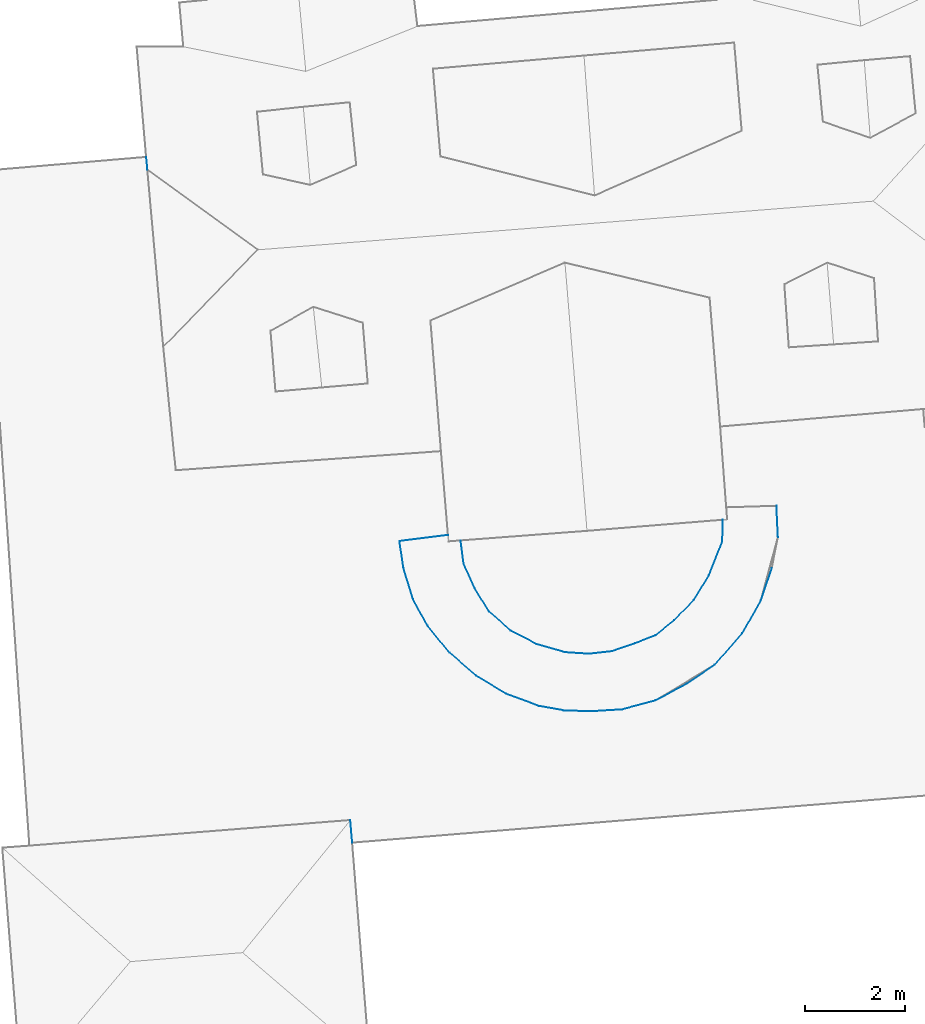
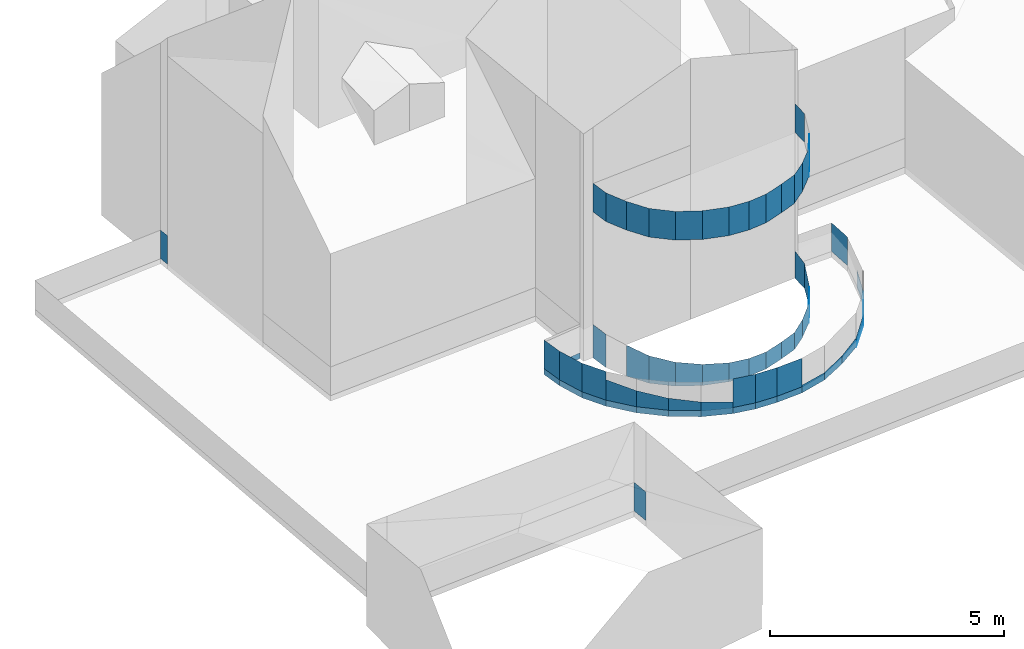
# Not in any storey, part 48 of 59: 88 walls.
"""IFC4 building model written with IfcOpenShell, lengths in metres."""

from ifc_helpers import new_model, entity, si_unit, converted_unit, frame, origin, place, context, subcontext, project, spatial, face_set, surface_model, element, save


model = new_model("IFC4")

# Units and contexts
model_context = context("Model", 3, precision=1e-05, world=origin())
body_context = subcontext(model_context, "Body", "Model", "MODEL_VIEW")
ifc_project = project(units=[converted_unit("PLANEANGLEUNIT", "DEGREE", entity("IfcRatioMeasure", 0.0174532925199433), si_unit("PLANEANGLEUNIT", "RADIAN"), dimensions=[0, 0, 0, 0, 0, 0, 0]), si_unit("AREAUNIT", "SQUARE_METRE"), si_unit("LENGTHUNIT", "METRE")], contexts=[model_context])

# Site, building
site_placement = place(None, origin())
site = spatial("IfcSite", under=ifc_project, at=site_placement, Name="_site")
building_1_placement = place(site_placement, origin())
building_1 = spatial("IfcBuilding", under=site, at=building_1_placement, Name="_building")

# Walls
for number, where, name in (
    (1, (0.0, 0.0, 0.0), "Wall"),
    (2, (0.0, 0.0, 0.0), "Wall"),
):
    element("IfcWall", number, at=place(building_1_placement, frame(where)), inside=building_1, Name=name, PredefinedType="NOTDEFINED", context=body_context, shape_type="SurfaceModel", body=[
        surface_model("IfcFaceBasedSurfaceModel", [(233.188, 86.01, 226.165), (233.15, 86.461, 226.165), (233.15, 86.461, 226.915), (233.188, 86.01, 226.915)], [face_set([[[0, 1, 2, 3]]])]),
    ])

# Building
building_2_placement = place(site_placement, origin())
building_2 = spatial("IfcBuilding", under=site, at=building_2_placement, Name="_building")

# Walls
wall_1_placement = place(building_2_placement, origin())
element("IfcWall", 3, at=wall_1_placement, inside=building_2, Name="Wall", PredefinedType="NOTDEFINED", context=body_context, shape_type="SurfaceModel", body=[
    surface_model("IfcFaceBasedSurfaceModel", [(235.41, 91.58, 229.832), (235.35, 92.039, 229.832), (235.35, 92.039, 230.582), (235.41, 91.58, 230.582)], [face_set([[[0, 1, 2, 3]]])]),
])
wall_2_placement = place(building_2_placement, origin())
element("IfcWall", 4, at=wall_2_placement, inside=building_2, Name="Wall", PredefinedType="NOTDEFINED", context=body_context, shape_type="SurfaceModel", body=[
    surface_model("IfcFaceBasedSurfaceModel", [(235.63, 91.09, 229.832), (235.41, 91.58, 229.832), (235.41, 91.58, 230.582), (235.63, 91.09, 230.582)], [face_set([[[0, 1, 2, 3]]])]),
])
wall_3_placement = place(building_2_placement, origin())
element("IfcWall", 5, at=wall_3_placement, inside=building_2, Name="Wall", PredefinedType="NOTDEFINED", context=body_context, shape_type="SurfaceModel", body=[
    surface_model("IfcFaceBasedSurfaceModel", [(235.92, 90.619, 229.832), (235.63, 91.09, 229.832), (235.63, 91.09, 230.582), (235.92, 90.619, 230.582)], [face_set([[[0, 1, 2, 3]]])]),
])
wall_4_placement = place(building_2_placement, origin())
element("IfcWall", 6, at=wall_4_placement, inside=building_2, Name="Wall", PredefinedType="NOTDEFINED", context=body_context, shape_type="SurfaceModel", body=[
    surface_model("IfcFaceBasedSurfaceModel", [(236.35, 90.24, 229.832), (235.92, 90.619, 229.832), (235.92, 90.619, 230.582), (236.35, 90.24, 230.582)], [face_set([[[0, 1, 2, 3]]])]),
])
wall_5_placement = place(building_2_placement, origin())
element("IfcWall", 7, at=wall_5_placement, inside=building_2, Name="Wall", PredefinedType="NOTDEFINED", context=body_context, shape_type="SurfaceModel", body=[
    surface_model("IfcFaceBasedSurfaceModel", [(236.87, 89.971, 229.832), (236.35, 90.24, 229.832), (236.35, 90.24, 230.582), (236.87, 89.971, 230.582)], [face_set([[[0, 1, 2, 3]]])]),
])
wall_6_placement = place(building_2_placement, origin())
element("IfcWall", 8, at=wall_6_placement, inside=building_2, Name="Wall", PredefinedType="NOTDEFINED", context=body_context, shape_type="SurfaceModel", body=[
    surface_model("IfcFaceBasedSurfaceModel", [(237.43, 89.811, 229.832), (236.87, 89.971, 229.832), (236.87, 89.971, 230.582), (237.43, 89.811, 230.582)], [face_set([[[0, 1, 2, 3]]])]),
])
wall_7_placement = place(building_2_placement, origin())
element("IfcWall", 9, at=wall_7_placement, inside=building_2, Name="Wall", PredefinedType="NOTDEFINED", context=body_context, shape_type="SurfaceModel", body=[
    surface_model("IfcFaceBasedSurfaceModel", [(237.91, 89.779, 229.832), (237.43, 89.811, 229.832), (237.43, 89.811, 230.582), (237.91, 89.779, 230.582)], [face_set([[[0, 1, 2, 3]]])]),
])
wall_8_placement = place(building_2_placement, origin())
element("IfcWall", 10, at=wall_8_placement, inside=building_2, Name="Wall", PredefinedType="NOTDEFINED", context=body_context, shape_type="SurfaceModel", body=[
    surface_model("IfcFaceBasedSurfaceModel", [(238.36, 89.83, 229.832), (237.91, 89.779, 229.832), (237.91, 89.779, 230.582), (238.36, 89.83, 230.582)], [face_set([[[0, 1, 2, 3]]])]),
])
wall_9_placement = place(building_2_placement, origin())
element("IfcWall", 11, at=wall_9_placement, inside=building_2, Name="Wall", PredefinedType="NOTDEFINED", context=body_context, shape_type="SurfaceModel", body=[
    surface_model("IfcFaceBasedSurfaceModel", [(238.83, 89.99, 229.832), (238.36, 89.83, 229.832), (238.36, 89.83, 230.582), (238.83, 89.99, 230.582)], [face_set([[[0, 1, 2, 3]]])]),
])
wall_10_placement = place(building_2_placement, origin())
element("IfcWall", 12, at=wall_10_placement, inside=building_2, Name="Wall", PredefinedType="NOTDEFINED", context=body_context, shape_type="SurfaceModel", body=[
    surface_model("IfcFaceBasedSurfaceModel", [(239.24, 90.15, 229.832), (238.83, 89.99, 229.832), (238.83, 89.99, 230.582), (239.24, 90.15, 230.582)], [face_set([[[0, 1, 2, 3]]])]),
])
wall_11_placement = place(building_2_placement, origin())
element("IfcWall", 13, at=wall_11_placement, inside=building_2, Name="Wall", PredefinedType="NOTDEFINED", context=body_context, shape_type="SurfaceModel", body=[
    surface_model("IfcFaceBasedSurfaceModel", [(239.61, 90.449, 229.832), (239.24, 90.15, 229.832), (239.24, 90.15, 230.582), (239.61, 90.449, 230.582)], [face_set([[[0, 1, 2, 3]]])]),
])
wall_12_placement = place(building_2_placement, origin())
element("IfcWall", 14, at=wall_12_placement, inside=building_2, Name="Wall", PredefinedType="NOTDEFINED", context=body_context, shape_type="SurfaceModel", body=[
    surface_model("IfcFaceBasedSurfaceModel", [(240.0, 90.85, 229.832), (239.61, 90.449, 229.832), (239.61, 90.449, 230.582), (240.0, 90.85, 230.582)], [face_set([[[0, 1, 2, 3]]])]),
])
wall_13_placement = place(building_2_placement, origin())
element("IfcWall", 15, at=wall_13_placement, inside=building_2, Name="Wall", PredefinedType="NOTDEFINED", context=body_context, shape_type="SurfaceModel", body=[
    surface_model("IfcFaceBasedSurfaceModel", [(240.3, 91.34, 229.832), (240.0, 90.85, 229.832), (240.0, 90.85, 230.582), (240.3, 91.34, 230.582)], [face_set([[[0, 1, 2, 3]]])]),
])
wall_14_placement = place(building_2_placement, origin())
element("IfcWall", 16, at=wall_14_placement, inside=building_2, Name="Wall", PredefinedType="NOTDEFINED", context=body_context, shape_type="SurfaceModel", body=[
    surface_model("IfcFaceBasedSurfaceModel", [(240.58, 92.451, 229.832), (240.57, 92.02, 229.832), (240.57, 92.02, 230.582), (240.58, 92.451, 230.582)], [face_set([[[0, 1, 2, 3]]])]),
])
wall_15_placement = place(building_2_placement, origin())
element("IfcWall", 17, at=wall_15_placement, inside=building_2, Name="Wall", PredefinedType="NOTDEFINED", context=body_context, shape_type="SurfaceModel", body=[
    surface_model("IfcFaceBasedSurfaceModel", [(235.41, 91.58, 229.832), (235.35, 92.039, 229.832), (235.35, 92.039, 230.582), (235.41, 91.58, 230.582)], [face_set([[[0, 1, 2, 3]]])]),
])
wall_16_placement = place(building_2_placement, origin())
element("IfcWall", 18, at=wall_16_placement, inside=building_2, Name="Wall", PredefinedType="NOTDEFINED", context=body_context, shape_type="SurfaceModel", body=[
    surface_model("IfcFaceBasedSurfaceModel", [(235.63, 91.09, 229.832), (235.41, 91.58, 229.832), (235.41, 91.58, 230.582), (235.63, 91.09, 230.582)], [face_set([[[0, 1, 2, 3]]])]),
])
wall_17_placement = place(building_2_placement, origin())
element("IfcWall", 19, at=wall_17_placement, inside=building_2, Name="Wall", PredefinedType="NOTDEFINED", context=body_context, shape_type="SurfaceModel", body=[
    surface_model("IfcFaceBasedSurfaceModel", [(235.92, 90.619, 229.832), (235.63, 91.09, 229.832), (235.63, 91.09, 230.582), (235.92, 90.619, 230.582)], [face_set([[[0, 1, 2, 3]]])]),
])
wall_18_placement = place(building_2_placement, origin())
element("IfcWall", 20, at=wall_18_placement, inside=building_2, Name="Wall", PredefinedType="NOTDEFINED", context=body_context, shape_type="SurfaceModel", body=[
    surface_model("IfcFaceBasedSurfaceModel", [(236.35, 90.24, 229.832), (235.92, 90.619, 229.832), (235.92, 90.619, 230.582), (236.35, 90.24, 230.582)], [face_set([[[0, 1, 2, 3]]])]),
])
wall_19_placement = place(building_2_placement, origin())
element("IfcWall", 21, at=wall_19_placement, inside=building_2, Name="Wall", PredefinedType="NOTDEFINED", context=body_context, shape_type="SurfaceModel", body=[
    surface_model("IfcFaceBasedSurfaceModel", [(236.87, 89.971, 229.832), (236.35, 90.24, 229.832), (236.35, 90.24, 230.582), (236.87, 89.971, 230.582)], [face_set([[[0, 1, 2, 3]]])]),
])
wall_20_placement = place(building_2_placement, origin())
element("IfcWall", 22, at=wall_20_placement, inside=building_2, Name="Wall", PredefinedType="NOTDEFINED", context=body_context, shape_type="SurfaceModel", body=[
    surface_model("IfcFaceBasedSurfaceModel", [(237.43, 89.811, 229.832), (236.87, 89.971, 229.832), (236.87, 89.971, 230.582), (237.43, 89.811, 230.582)], [face_set([[[0, 1, 2, 3]]])]),
])
wall_21_placement = place(building_2_placement, origin())
element("IfcWall", 23, at=wall_21_placement, inside=building_2, Name="Wall", PredefinedType="NOTDEFINED", context=body_context, shape_type="SurfaceModel", body=[
    surface_model("IfcFaceBasedSurfaceModel", [(237.91, 89.779, 229.832), (237.43, 89.811, 229.832), (237.43, 89.811, 230.582), (237.91, 89.779, 230.582)], [face_set([[[0, 1, 2, 3]]])]),
])
wall_22_placement = place(building_2_placement, origin())
element("IfcWall", 24, at=wall_22_placement, inside=building_2, Name="Wall", PredefinedType="NOTDEFINED", context=body_context, shape_type="SurfaceModel", body=[
    surface_model("IfcFaceBasedSurfaceModel", [(238.36, 89.83, 229.832), (237.91, 89.779, 229.832), (237.91, 89.779, 230.582), (238.36, 89.83, 230.582)], [face_set([[[0, 1, 2, 3]]])]),
])
wall_23_placement = place(building_2_placement, origin())
element("IfcWall", 25, at=wall_23_placement, inside=building_2, Name="Wall", PredefinedType="NOTDEFINED", context=body_context, shape_type="SurfaceModel", body=[
    surface_model("IfcFaceBasedSurfaceModel", [(238.83, 89.99, 229.832), (238.36, 89.83, 229.832), (238.36, 89.83, 230.582), (238.83, 89.99, 230.582)], [face_set([[[0, 1, 2, 3]]])]),
])
wall_24_placement = place(building_2_placement, origin())
element("IfcWall", 26, at=wall_24_placement, inside=building_2, Name="Wall", PredefinedType="NOTDEFINED", context=body_context, shape_type="SurfaceModel", body=[
    surface_model("IfcFaceBasedSurfaceModel", [(239.24, 90.15, 229.832), (238.83, 89.99, 229.832), (238.83, 89.99, 230.582), (239.24, 90.15, 230.582)], [face_set([[[0, 1, 2, 3]]])]),
])
wall_25_placement = place(building_2_placement, origin())
element("IfcWall", 27, at=wall_25_placement, inside=building_2, Name="Wall", PredefinedType="NOTDEFINED", context=body_context, shape_type="SurfaceModel", body=[
    surface_model("IfcFaceBasedSurfaceModel", [(239.61, 90.449, 229.832), (239.24, 90.15, 229.832), (239.24, 90.15, 230.582), (239.61, 90.449, 230.582)], [face_set([[[0, 1, 2, 3]]])]),
])
wall_26_placement = place(building_2_placement, origin())
element("IfcWall", 28, at=wall_26_placement, inside=building_2, Name="Wall", PredefinedType="NOTDEFINED", context=body_context, shape_type="SurfaceModel", body=[
    surface_model("IfcFaceBasedSurfaceModel", [(240.0, 90.85, 229.832), (239.61, 90.449, 229.832), (239.61, 90.449, 230.582), (240.0, 90.85, 230.582)], [face_set([[[0, 1, 2, 3]]])]),
])
wall_27_placement = place(building_2_placement, origin())
element("IfcWall", 29, at=wall_27_placement, inside=building_2, Name="Wall", PredefinedType="NOTDEFINED", context=body_context, shape_type="SurfaceModel", body=[
    surface_model("IfcFaceBasedSurfaceModel", [(240.3, 91.34, 229.832), (240.0, 90.85, 229.832), (240.0, 90.85, 230.582), (240.3, 91.34, 230.582)], [face_set([[[0, 1, 2, 3]]])]),
])
wall_28_placement = place(building_2_placement, origin())
element("IfcWall", 30, at=wall_28_placement, inside=building_2, Name="Wall", PredefinedType="NOTDEFINED", context=body_context, shape_type="SurfaceModel", body=[
    surface_model("IfcFaceBasedSurfaceModel", [(240.58, 92.451, 229.832), (240.57, 92.02, 229.832), (240.57, 92.02, 230.582), (240.58, 92.451, 230.582)], [face_set([[[0, 1, 2, 3]]])]),
])
wall_29_placement = place(building_2_placement, origin())
element("IfcWall", 31, at=wall_29_placement, inside=building_2, Name="Wall", PredefinedType="NOTDEFINED", context=body_context, shape_type="SurfaceModel", body=[
    surface_model("IfcFaceBasedSurfaceModel", [(234.21, 91.49, 226.17), (234.13, 92.029, 226.17), (234.13, 92.029, 226.92), (234.21, 91.49, 226.92)], [face_set([[[0, 1, 2, 3]]])]),
])
wall_30_placement = place(building_2_placement, origin())
element("IfcWall", 32, at=wall_30_placement, inside=building_2, Name="Wall", PredefinedType="NOTDEFINED", context=body_context, shape_type="SurfaceModel", body=[
    surface_model("IfcFaceBasedSurfaceModel", [(234.4, 90.869, 226.17), (234.21, 91.49, 226.17), (234.21, 91.49, 226.92), (234.4, 90.869, 226.92)], [face_set([[[0, 1, 2, 3]]])]),
])
wall_31_placement = place(building_2_placement, origin())
element("IfcWall", 33, at=wall_31_placement, inside=building_2, Name="Wall", PredefinedType="NOTDEFINED", context=body_context, shape_type="SurfaceModel", body=[
    surface_model("IfcFaceBasedSurfaceModel", [(234.69, 90.34, 226.17), (234.4, 90.869, 226.17), (234.4, 90.869, 226.92), (234.69, 90.34, 226.92)], [face_set([[[0, 1, 2, 3]]])]),
])
wall_32_placement = place(building_2_placement, origin())
element("IfcWall", 34, at=wall_32_placement, inside=building_2, Name="Wall", PredefinedType="NOTDEFINED", context=body_context, shape_type="SurfaceModel", body=[
    surface_model("IfcFaceBasedSurfaceModel", [(237.41, 88.65, 226.17), (236.91, 88.74, 226.17), (236.91, 88.74, 226.92), (237.41, 88.65, 226.92)], [face_set([[[0, 1, 2, 3]]])]),
])
wall_33_placement = place(building_2_placement, origin())
element("IfcWall", 35, at=wall_33_placement, inside=building_2, Name="Wall", PredefinedType="NOTDEFINED", context=body_context, shape_type="SurfaceModel", body=[
    surface_model("IfcFaceBasedSurfaceModel", [(237.94, 88.631, 226.17), (237.41, 88.65, 226.17), (237.41, 88.65, 226.92), (237.94, 88.631, 226.92)], [face_set([[[0, 1, 2, 3]]])]),
])
wall_34_placement = place(building_2_placement, origin())
element("IfcWall", 36, at=wall_34_placement, inside=building_2, Name="Wall", PredefinedType="NOTDEFINED", context=body_context, shape_type="SurfaceModel", body=[
    surface_model("IfcFaceBasedSurfaceModel", [(238.57, 88.67, 226.17), (237.94, 88.631, 226.17), (237.94, 88.631, 226.92), (238.57, 88.67, 226.92)], [face_set([[[0, 1, 2, 3]]])]),
])
wall_35_placement = place(building_2_placement, origin())
element("IfcWall", 37, at=wall_35_placement, inside=building_2, Name="Wall", PredefinedType="NOTDEFINED", context=body_context, shape_type="SurfaceModel", body=[
    surface_model("IfcFaceBasedSurfaceModel", [(241.65, 92.73, 226.17), (241.68, 92.109, 226.17), (241.68, 92.109, 226.92), (241.65, 92.73, 226.92)], [face_set([[[0, 1, 2, 3]]])]),
])
wall_36_placement = place(building_2_placement, origin())
element("IfcWall", 38, at=wall_36_placement, inside=building_2, Name="Wall", PredefinedType="NOTDEFINED", context=body_context, shape_type="SurfaceModel", body=[
    surface_model("IfcFaceBasedSurfaceModel", [(234.21, 91.49, 226.17), (234.13, 92.029, 226.17), (234.13, 92.029, 226.92), (234.21, 91.49, 226.92)], [face_set([[[0, 1, 2, 3]]])]),
])
wall_37_placement = place(building_2_placement, origin())
element("IfcWall", 39, at=wall_37_placement, inside=building_2, Name="Wall", PredefinedType="NOTDEFINED", context=body_context, shape_type="SurfaceModel", body=[
    surface_model("IfcFaceBasedSurfaceModel", [(234.4, 90.869, 226.17), (234.21, 91.49, 226.17), (234.21, 91.49, 226.92), (234.4, 90.869, 226.92)], [face_set([[[0, 1, 2, 3]]])]),
])
wall_38_placement = place(building_2_placement, origin())
element("IfcWall", 40, at=wall_38_placement, inside=building_2, Name="Wall", PredefinedType="NOTDEFINED", context=body_context, shape_type="SurfaceModel", body=[
    surface_model("IfcFaceBasedSurfaceModel", [(234.69, 90.34, 226.17), (234.4, 90.869, 226.17), (234.4, 90.869, 226.92), (234.69, 90.34, 226.92)], [face_set([[[0, 1, 2, 3]]])]),
])
wall_39_placement = place(building_2_placement, origin())
element("IfcWall", 41, at=wall_39_placement, inside=building_2, Name="Wall", PredefinedType="NOTDEFINED", context=body_context, shape_type="SurfaceModel", body=[
    surface_model("IfcFaceBasedSurfaceModel", [(237.41, 88.65, 226.17), (236.91, 88.74, 226.17), (236.91, 88.74, 226.92), (237.41, 88.65, 226.92)], [face_set([[[0, 1, 2, 3]]])]),
])
wall_40_placement = place(building_2_placement, origin())
element("IfcWall", 42, at=wall_40_placement, inside=building_2, Name="Wall", PredefinedType="NOTDEFINED", context=body_context, shape_type="SurfaceModel", body=[
    surface_model("IfcFaceBasedSurfaceModel", [(237.94, 88.631, 226.17), (237.41, 88.65, 226.17), (237.41, 88.65, 226.92), (237.94, 88.631, 226.92)], [face_set([[[0, 1, 2, 3]]])]),
])
wall_41_placement = place(building_2_placement, origin())
element("IfcWall", 43, at=wall_41_placement, inside=building_2, Name="Wall", PredefinedType="NOTDEFINED", context=body_context, shape_type="SurfaceModel", body=[
    surface_model("IfcFaceBasedSurfaceModel", [(238.57, 88.67, 226.17), (237.94, 88.631, 226.17), (237.94, 88.631, 226.92), (238.57, 88.67, 226.92)], [face_set([[[0, 1, 2, 3]]])]),
])
for number, where, name in (
    (44, (0.0, 0.0, 0.0), "Wall"),
    (45, (0.0, 0.0, 0.0), "Wall"),
):
    element("IfcWall", number, at=place(building_2_placement, frame(where)), inside=building_2, Name=name, PredefinedType="NOTDEFINED", context=body_context, shape_type="SurfaceModel", body=[
        surface_model("IfcFaceBasedSurfaceModel", [(229.102, 99.438, 226.163), (229.079, 99.689, 226.163), (229.079, 99.689, 226.913), (229.102, 99.438, 226.913)], [face_set([[[0, 1, 2, 3]]])]),
    ])
wall_42_placement = place(building_2_placement, origin())
element("IfcWall", 46, at=wall_42_placement, inside=building_2, Name="Wall", PredefinedType="NOTDEFINED", context=body_context, shape_type="SurfaceModel", body=[
    surface_model("IfcFaceBasedSurfaceModel", [(235.35, 92.039, 226.89), (235.41, 91.58, 226.885), (235.41, 91.58, 226.016), (235.35, 92.039, 226.017)], [face_set([[[0, 1, 2, 3]]])]),
])
wall_43_placement = place(building_2_placement, origin())
element("IfcWall", 47, at=wall_43_placement, inside=building_2, Name="Wall", PredefinedType="NOTDEFINED", context=body_context, shape_type="SurfaceModel", body=[
    surface_model("IfcFaceBasedSurfaceModel", [(234.21, 91.49, 226.847), (234.13, 92.029, 226.852), (234.13, 92.029, 226.017), (234.21, 91.49, 226.016)], [face_set([[[0, 1, 2, 3]]])]),
])
wall_44_placement = place(building_2_placement, origin())
element("IfcWall", 48, at=wall_44_placement, inside=building_2, Name="Wall", PredefinedType="NOTDEFINED", context=body_context, shape_type="SurfaceModel", body=[
    surface_model("IfcFaceBasedSurfaceModel", [(235.63, 91.09, 226.825), (235.92, 90.619, 226.728), (235.92, 90.619, 226.014), (235.63, 91.09, 226.015)], [face_set([[[0, 1, 2, 3]]])]),
])
wall_45_placement = place(building_2_placement, origin())
element("IfcWall", 49, at=wall_45_placement, inside=building_2, Name="Wall", PredefinedType="NOTDEFINED", context=body_context, shape_type="SurfaceModel", body=[
    surface_model("IfcFaceBasedSurfaceModel", [(234.69, 90.34, 226.706), (234.4, 90.869, 226.81), (234.4, 90.869, 226.014), (234.69, 90.34, 226.013)], [face_set([[[0, 1, 2, 3]]])]),
])
wall_46_placement = place(building_2_placement, origin())
element("IfcWall", 50, at=wall_46_placement, inside=building_2, Name="Wall", PredefinedType="NOTDEFINED", context=body_context, shape_type="SurfaceModel", body=[
    surface_model("IfcFaceBasedSurfaceModel", [(240.57, 92.02, 226.666), (240.58, 92.451, 226.73), (240.58, 92.451, 226.017), (240.57, 92.02, 226.017)], [face_set([[[0, 1, 2, 3]]])]),
])
wall_47_placement = place(building_2_placement, origin())
element("IfcWall", 51, at=wall_47_placement, inside=building_2, Name="Wall", PredefinedType="NOTDEFINED", context=body_context, shape_type="SurfaceModel", body=[
    surface_model("IfcFaceBasedSurfaceModel", [(235.92, 90.619, 226.728), (236.35, 90.24, 226.64), (236.35, 90.24, 226.014), (235.92, 90.619, 226.014)], [face_set([[[0, 1, 2, 3]]])]),
])
wall_48_placement = place(building_2_placement, origin())
element("IfcWall", 52, at=wall_48_placement, inside=building_2, Name="Wall", PredefinedType="NOTDEFINED", context=body_context, shape_type="SurfaceModel", body=[
    surface_model("IfcFaceBasedSurfaceModel", [(235.13, 89.801, 226.592), (234.69, 90.34, 226.706), (234.69, 90.34, 226.013), (235.13, 89.801, 226.012)], [face_set([[[0, 1, 2, 3]]])]),
])
wall_49_placement = place(building_2_placement, origin())
element("IfcWall", 53, at=wall_49_placement, inside=building_2, Name="Wall", PredefinedType="NOTDEFINED", context=body_context, shape_type="SurfaceModel", body=[
    surface_model("IfcFaceBasedSurfaceModel", [(240.3, 91.34, 226.577), (240.57, 92.02, 226.666), (240.57, 92.02, 226.017), (240.3, 91.34, 226.016)], [face_set([[[0, 1, 2, 3]]])]),
])
wall_50_placement = place(building_2_placement, origin())
element("IfcWall", 54, at=wall_50_placement, inside=building_2, Name="Wall", PredefinedType="NOTDEFINED", context=body_context, shape_type="SurfaceModel", body=[
    surface_model("IfcFaceBasedSurfaceModel", [(236.35, 90.24, 226.64), (236.87, 89.971, 226.565), (236.87, 89.971, 226.013), (236.35, 90.24, 226.014)], [face_set([[[0, 1, 2, 3]]])]),
])
wall_51_placement = place(building_2_placement, origin())
element("IfcWall", 55, at=wall_51_placement, inside=building_2, Name="Wall", PredefinedType="NOTDEFINED", context=body_context, shape_type="SurfaceModel", body=[
    surface_model("IfcFaceBasedSurfaceModel", [(235.66, 89.34, 226.486), (235.13, 89.801, 226.592), (235.13, 89.801, 226.012), (235.66, 89.34, 226.011)], [face_set([[[0, 1, 2, 3]]])]),
])
wall_52_placement = place(building_2_placement, origin())
element("IfcWall", 56, at=wall_52_placement, inside=building_2, Name="Wall", PredefinedType="NOTDEFINED", context=body_context, shape_type="SurfaceModel", body=[
    surface_model("IfcFaceBasedSurfaceModel", [(240.0, 90.85, 226.519), (240.3, 91.34, 226.577), (240.3, 91.34, 226.016), (240.0, 90.85, 226.016)], [face_set([[[0, 1, 2, 3]]])]),
])
wall_53_placement = place(building_2_placement, origin())
element("IfcWall", 57, at=wall_53_placement, inside=building_2, Name="Wall", PredefinedType="NOTDEFINED", context=body_context, shape_type="SurfaceModel", body=[
    surface_model("IfcFaceBasedSurfaceModel", [(236.87, 89.971, 226.565), (237.43, 89.811, 226.506), (237.43, 89.811, 226.013), (236.87, 89.971, 226.013)], [face_set([[[0, 1, 2, 3]]])]),
])
wall_54_placement = place(building_2_placement, origin())
element("IfcWall", 58, at=wall_54_placement, inside=building_2, Name="Wall", PredefinedType="NOTDEFINED", context=body_context, shape_type="SurfaceModel", body=[
    surface_model("IfcFaceBasedSurfaceModel", [(239.61, 90.449, 226.479), (240.0, 90.85, 226.519), (240.0, 90.85, 226.016), (239.61, 90.449, 226.015)], [face_set([[[0, 1, 2, 3]]])]),
])
wall_55_placement = place(building_2_placement, origin())
element("IfcWall", 59, at=wall_55_placement, inside=building_2, Name="Wall", PredefinedType="NOTDEFINED", context=body_context, shape_type="SurfaceModel", body=[
    surface_model("IfcFaceBasedSurfaceModel", [(237.43, 89.811, 226.506), (237.91, 89.779, 226.473), (237.91, 89.779, 226.013), (237.43, 89.811, 226.013)], [face_set([[[0, 1, 2, 3]]])]),
])
wall_56_placement = place(building_2_placement, origin())
element("IfcWall", 60, at=wall_56_placement, inside=building_2, Name="Wall", PredefinedType="NOTDEFINED", context=body_context, shape_type="SurfaceModel", body=[
    surface_model("IfcFaceBasedSurfaceModel", [(241.56, 91.49, 226.491), (241.34, 90.84, 226.402), (241.34, 90.84, 226.015), (241.56, 91.49, 226.016)], [face_set([[[0, 1, 2, 3]]])]),
])
wall_57_placement = place(building_2_placement, origin())
element("IfcWall", 61, at=wall_57_placement, inside=building_2, Name="Wall", PredefinedType="NOTDEFINED", context=body_context, shape_type="SurfaceModel", body=[
    surface_model("IfcFaceBasedSurfaceModel", [(236.26, 88.98, 226.394), (235.66, 89.34, 226.486), (235.66, 89.34, 226.011), (236.26, 88.98, 226.011)], [face_set([[[0, 1, 2, 3]]])]),
])
wall_58_placement = place(building_2_placement, origin())
element("IfcWall", 62, at=wall_58_placement, inside=building_2, Name="Wall", PredefinedType="NOTDEFINED", context=body_context, shape_type="SurfaceModel", body=[
    surface_model("IfcFaceBasedSurfaceModel", [(239.24, 90.15, 226.454), (239.61, 90.449, 226.479), (239.61, 90.449, 226.015), (239.24, 90.15, 226.014)], [face_set([[[0, 1, 2, 3]]])]),
])
wall_59_placement = place(building_2_placement, origin())
element("IfcWall", 63, at=wall_59_placement, inside=building_2, Name="Wall", PredefinedType="NOTDEFINED", context=body_context, shape_type="SurfaceModel", body=[
    surface_model("IfcFaceBasedSurfaceModel", [(237.91, 89.779, 226.473), (238.36, 89.83, 226.454), (238.36, 89.83, 226.013), (237.91, 89.779, 226.013)], [face_set([[[0, 1, 2, 3]]])]),
])
wall_60_placement = place(building_2_placement, origin())
element("IfcWall", 64, at=wall_60_placement, inside=building_2, Name="Wall", PredefinedType="NOTDEFINED", context=body_context, shape_type="SurfaceModel", body=[
    surface_model("IfcFaceBasedSurfaceModel", [(238.36, 89.83, 226.454), (238.83, 89.99, 226.452), (238.83, 89.99, 226.014), (238.36, 89.83, 226.013)], [face_set([[[0, 1, 2, 3]]])]),
])
wall_61_placement = place(building_2_placement, origin())
element("IfcWall", 65, at=wall_61_placement, inside=building_2, Name="Wall", PredefinedType="NOTDEFINED", context=body_context, shape_type="SurfaceModel", body=[
    surface_model("IfcFaceBasedSurfaceModel", [(238.83, 89.99, 226.452), (239.24, 90.15, 226.454), (239.24, 90.15, 226.014), (238.83, 89.99, 226.014)], [face_set([[[0, 1, 2, 3]]])]),
])
wall_62_placement = place(building_2_placement, origin())
element("IfcWall", 66, at=wall_62_placement, inside=building_2, Name="Wall", PredefinedType="NOTDEFINED", context=body_context, shape_type="SurfaceModel", body=[
    surface_model("IfcFaceBasedSurfaceModel", [(241.34, 90.84, 226.402), (240.97, 90.189, 226.321), (240.97, 90.189, 226.015), (241.34, 90.84, 226.015)], [face_set([[[0, 1, 2, 3]]])]),
])
wall_63_placement = place(building_2_placement, origin())
element("IfcWall", 67, at=wall_63_placement, inside=building_2, Name="Wall", PredefinedType="NOTDEFINED", context=body_context, shape_type="SurfaceModel", body=[
    surface_model("IfcFaceBasedSurfaceModel", [(236.91, 88.74, 226.318), (236.26, 88.98, 226.394), (236.26, 88.98, 226.011), (236.91, 88.74, 226.011)], [face_set([[[0, 1, 2, 3]]])]),
])
wall_64_placement = place(building_2_placement, origin())
element("IfcWall", 68, at=wall_64_placement, inside=building_2, Name="Wall", PredefinedType="NOTDEFINED", context=body_context, shape_type="SurfaceModel", body=[
    surface_model("IfcFaceBasedSurfaceModel", [(240.97, 90.189, 226.321), (240.42, 89.561, 226.253), (240.42, 89.561, 226.013), (240.97, 90.189, 226.015)], [face_set([[[0, 1, 2, 3]]])]),
])
wall_65_placement = place(building_2_placement, origin())
element("IfcWall", 69, at=wall_65_placement, inside=building_2, Name="Wall", PredefinedType="NOTDEFINED", context=body_context, shape_type="SurfaceModel", body=[
    surface_model("IfcFaceBasedSurfaceModel", [(237.41, 88.65, 226.275), (236.91, 88.74, 226.318), (236.91, 88.74, 226.011), (237.41, 88.65, 226.011)], [face_set([[[0, 1, 2, 3]]])]),
])
wall_66_placement = place(building_2_placement, origin())
element("IfcWall", 70, at=wall_66_placement, inside=building_2, Name="Wall", PredefinedType="NOTDEFINED", context=body_context, shape_type="SurfaceModel", body=[
    surface_model("IfcFaceBasedSurfaceModel", [(237.94, 88.631, 226.243), (237.41, 88.65, 226.275), (237.41, 88.65, 226.011), (237.94, 88.631, 226.011)], [face_set([[[0, 1, 2, 3]]])]),
])
wall_67_placement = place(building_2_placement, origin())
element("IfcWall", 71, at=wall_67_placement, inside=building_2, Name="Wall", PredefinedType="NOTDEFINED", context=body_context, shape_type="SurfaceModel", body=[
    surface_model("IfcFaceBasedSurfaceModel", [(240.42, 89.561, 226.253), (239.86, 89.18, 226.223), (239.86, 89.18, 226.012), (240.42, 89.561, 226.013)], [face_set([[[0, 1, 2, 3]]])]),
])
wall_68_placement = place(building_2_placement, origin())
element("IfcWall", 72, at=wall_68_placement, inside=building_2, Name="Wall", PredefinedType="NOTDEFINED", context=body_context, shape_type="SurfaceModel", body=[
    surface_model("IfcFaceBasedSurfaceModel", [(238.57, 88.67, 226.214), (237.94, 88.631, 226.243), (237.94, 88.631, 226.011), (238.57, 88.67, 226.011)], [face_set([[[0, 1, 2, 3]]])]),
])
wall_69_placement = place(building_2_placement, origin())
element("IfcWall", 73, at=wall_69_placement, inside=building_2, Name="Wall", PredefinedType="NOTDEFINED", context=body_context, shape_type="SurfaceModel", body=[
    surface_model("IfcFaceBasedSurfaceModel", [(239.86, 89.18, 226.223), (239.24, 88.85, 226.205), (239.24, 88.85, 226.011), (239.86, 89.18, 226.012)], [face_set([[[0, 1, 2, 3]]])]),
])
wall_70_placement = place(building_2_placement, origin())
element("IfcWall", 74, at=wall_70_placement, inside=building_2, Name="Wall", PredefinedType="NOTDEFINED", context=body_context, shape_type="SurfaceModel", body=[
    surface_model("IfcFaceBasedSurfaceModel", [(239.24, 88.85, 226.205), (238.57, 88.67, 226.214), (238.57, 88.67, 226.011), (239.24, 88.85, 226.011)], [face_set([[[0, 1, 2, 3]]])]),
])
wall_71_placement = place(building_2_placement, origin())
element("IfcWall", 75, at=wall_71_placement, inside=building_2, Name="Wall", PredefinedType="NOTDEFINED", context=body_context, shape_type="SurfaceModel", body=[
    surface_model("IfcFaceBasedSurfaceModel", [(235.1, 92.15, 226.17), (234.13, 92.029, 226.17), (234.13, 92.029, 226.017), (235.1, 92.15, 226.017)], [face_set([[[0, 1, 2, 3]]])]),
])
wall_72_placement = place(building_2_placement, origin())
element("IfcWall", 76, at=wall_72_placement, inside=building_2, Name="Wall", PredefinedType="NOTDEFINED", context=body_context, shape_type="SurfaceModel", body=[
    surface_model("IfcFaceBasedSurfaceModel", [(234.13, 92.029, 226.17), (234.21, 91.49, 226.17), (234.21, 91.49, 226.016), (234.13, 92.029, 226.017)], [face_set([[[0, 1, 2, 3]]])]),
])
wall_73_placement = place(building_2_placement, origin())
element("IfcWall", 77, at=wall_73_placement, inside=building_2, Name="Wall", PredefinedType="NOTDEFINED", context=body_context, shape_type="SurfaceModel", body=[
    surface_model("IfcFaceBasedSurfaceModel", [(240.97, 90.189, 226.17), (241.34, 90.84, 226.17), (241.34, 90.84, 226.015), (240.97, 90.189, 226.015)], [face_set([[[0, 1, 2, 3]]])]),
])
wall_74_placement = place(building_2_placement, origin())
element("IfcWall", 78, at=wall_74_placement, inside=building_2, Name="Wall", PredefinedType="NOTDEFINED", context=body_context, shape_type="SurfaceModel", body=[
    surface_model("IfcFaceBasedSurfaceModel", [(234.21, 91.49, 226.17), (234.4, 90.869, 226.17), (234.4, 90.869, 226.014), (234.21, 91.49, 226.016)], [face_set([[[0, 1, 2, 3]]])]),
])
wall_75_placement = place(building_2_placement, origin())
element("IfcWall", 79, at=wall_75_placement, inside=building_2, Name="Wall", PredefinedType="NOTDEFINED", context=body_context, shape_type="SurfaceModel", body=[
    surface_model("IfcFaceBasedSurfaceModel", [(234.4, 90.869, 226.17), (234.69, 90.34, 226.17), (234.69, 90.34, 226.013), (234.4, 90.869, 226.014)], [face_set([[[0, 1, 2, 3]]])]),
])
wall_76_placement = place(building_2_placement, origin())
element("IfcWall", 80, at=wall_76_placement, inside=building_2, Name="Wall", PredefinedType="NOTDEFINED", context=body_context, shape_type="SurfaceModel", body=[
    surface_model("IfcFaceBasedSurfaceModel", [(240.42, 89.561, 226.17), (240.97, 90.189, 226.17), (240.97, 90.189, 226.015), (240.42, 89.561, 226.013)], [face_set([[[0, 1, 2, 3]]])]),
])
wall_77_placement = place(building_2_placement, origin())
element("IfcWall", 81, at=wall_77_placement, inside=building_2, Name="Wall", PredefinedType="NOTDEFINED", context=body_context, shape_type="SurfaceModel", body=[
    surface_model("IfcFaceBasedSurfaceModel", [(234.69, 90.34, 226.17), (235.13, 89.801, 226.17), (235.13, 89.801, 226.012), (234.69, 90.34, 226.013)], [face_set([[[0, 1, 2, 3]]])]),
])
wall_78_placement = place(building_2_placement, origin())
element("IfcWall", 82, at=wall_78_placement, inside=building_2, Name="Wall", PredefinedType="NOTDEFINED", context=body_context, shape_type="SurfaceModel", body=[
    surface_model("IfcFaceBasedSurfaceModel", [(235.13, 89.801, 226.17), (235.66, 89.34, 226.17), (235.66, 89.34, 226.011), (235.13, 89.801, 226.012)], [face_set([[[0, 1, 2, 3]]])]),
])
wall_79_placement = place(building_2_placement, origin())
element("IfcWall", 83, at=wall_79_placement, inside=building_2, Name="Wall", PredefinedType="NOTDEFINED", context=body_context, shape_type="SurfaceModel", body=[
    surface_model("IfcFaceBasedSurfaceModel", [(238.57, 88.67, 226.17), (239.24, 88.85, 226.17), (239.24, 88.85, 226.011), (238.57, 88.67, 226.011)], [face_set([[[0, 1, 2, 3]]])]),
])
wall_80_placement = place(building_2_placement, origin())
element("IfcWall", 84, at=wall_80_placement, inside=building_2, Name="Wall", PredefinedType="NOTDEFINED", context=body_context, shape_type="SurfaceModel", body=[
    surface_model("IfcFaceBasedSurfaceModel", [(235.66, 89.34, 226.17), (236.26, 88.98, 226.17), (236.26, 88.98, 226.011), (235.66, 89.34, 226.011)], [face_set([[[0, 1, 2, 3]]])]),
])
wall_81_placement = place(building_2_placement, origin())
element("IfcWall", 85, at=wall_81_placement, inside=building_2, Name="Wall", PredefinedType="NOTDEFINED", context=body_context, shape_type="SurfaceModel", body=[
    surface_model("IfcFaceBasedSurfaceModel", [(237.94, 88.631, 226.17), (238.57, 88.67, 226.17), (238.57, 88.67, 226.011), (237.94, 88.631, 226.011)], [face_set([[[0, 1, 2, 3]]])]),
])
wall_82_placement = place(building_2_placement, origin())
element("IfcWall", 86, at=wall_82_placement, inside=building_2, Name="Wall", PredefinedType="NOTDEFINED", context=body_context, shape_type="SurfaceModel", body=[
    surface_model("IfcFaceBasedSurfaceModel", [(236.26, 88.98, 226.17), (236.91, 88.74, 226.17), (236.91, 88.74, 226.011), (236.26, 88.98, 226.011)], [face_set([[[0, 1, 2, 3]]])]),
])
wall_83_placement = place(building_2_placement, origin())
element("IfcWall", 87, at=wall_83_placement, inside=building_2, Name="Wall", PredefinedType="NOTDEFINED", context=body_context, shape_type="SurfaceModel", body=[
    surface_model("IfcFaceBasedSurfaceModel", [(237.41, 88.65, 226.17), (237.94, 88.631, 226.17), (237.94, 88.631, 226.011), (237.41, 88.65, 226.011)], [face_set([[[0, 1, 2, 3]]])]),
])
wall_84_placement = place(building_2_placement, origin())
element("IfcWall", 88, at=wall_84_placement, inside=building_2, Name="Wall", PredefinedType="NOTDEFINED", context=body_context, shape_type="SurfaceModel", body=[
    surface_model("IfcFaceBasedSurfaceModel", [(236.91, 88.74, 226.17), (237.41, 88.65, 226.17), (237.41, 88.65, 226.011), (236.91, 88.74, 226.011)], [face_set([[[0, 1, 2, 3]]])]),
])

save(model, "model.ifc")
